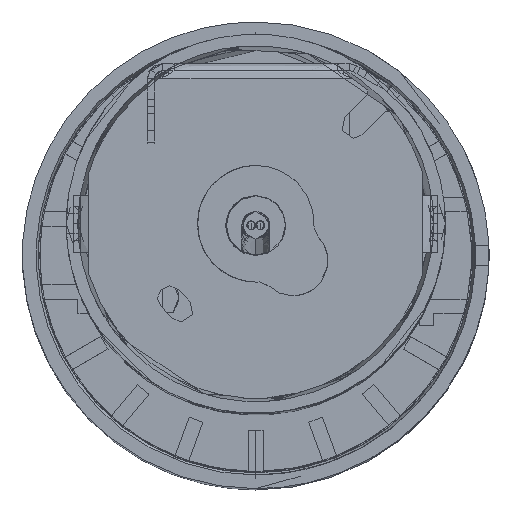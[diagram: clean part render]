
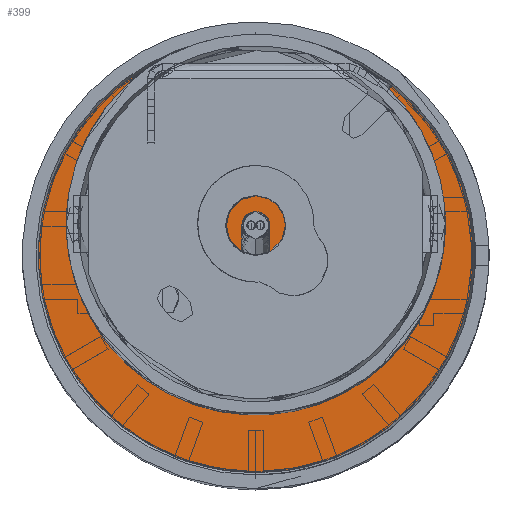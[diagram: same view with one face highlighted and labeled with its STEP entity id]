
A CAD part, top view. The second image highlights one B-rep face of the part: STEP entity #399.
In plain terms, the highlighted planar face has unit normal (0, 0, 1) as drawn and (0, 1, 0) by its records, which use the part's own axes.
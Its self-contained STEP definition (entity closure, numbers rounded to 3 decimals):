
#110=FACE_BOUND('',#1590,.T.);
#399=ADVANCED_FACE('',(#990,#110),#9486,.T.);
#990=FACE_OUTER_BOUND('',#1589,.T.);
#1589=EDGE_LOOP('',(#3317,#3318));
#1590=EDGE_LOOP('',(#3319,#3320));
#3317=ORIENTED_EDGE('',*,*,#5831,.F.);
#3318=ORIENTED_EDGE('',*,*,#5828,.F.);
#3319=ORIENTED_EDGE('',*,*,#5833,.T.);
#3320=ORIENTED_EDGE('',*,*,#5824,.T.);
#5824=EDGE_CURVE('',#8771,#8770,#7002,.T.);
#5828=EDGE_CURVE('',#8774,#8775,#7004,.T.);
#5831=EDGE_CURVE('',#8775,#8774,#7006,.T.);
#5833=EDGE_CURVE('',#8770,#8771,#7008,.T.);
#7002=(
BOUNDED_CURVE()
B_SPLINE_CURVE(2,(#17055,#17056,#17057,#17058,#17059),.UNSPECIFIED.,.F.,
 .F.)
B_SPLINE_CURVE_WITH_KNOTS((3,2,3),(-6.126,-3.063,
0.),.UNSPECIFIED.)
CURVE()
GEOMETRIC_REPRESENTATION_ITEM()
RATIONAL_B_SPLINE_CURVE((1.,0.707,1.,0.707,1.))
REPRESENTATION_ITEM('')
);
#7004=(
BOUNDED_CURVE()
B_SPLINE_CURVE(2,(#17069,#17070,#17071,#17072,#17073),.UNSPECIFIED.,.F.,
 .F.)
B_SPLINE_CURVE_WITH_KNOTS((3,2,3),(0.,58.512,117.024),
 .UNSPECIFIED.)
CURVE()
GEOMETRIC_REPRESENTATION_ITEM()
RATIONAL_B_SPLINE_CURVE((1.,0.707,1.,0.707,1.))
REPRESENTATION_ITEM('')
);
#7006=(
BOUNDED_CURVE()
B_SPLINE_CURVE(2,(#17081,#17082,#17083,#17084,#17085),.UNSPECIFIED.,.F.,
 .F.)
B_SPLINE_CURVE_WITH_KNOTS((3,2,3),(0.,58.512,117.024),
 .UNSPECIFIED.)
CURVE()
GEOMETRIC_REPRESENTATION_ITEM()
RATIONAL_B_SPLINE_CURVE((1.,0.707,1.,0.707,1.))
REPRESENTATION_ITEM('')
);
#7008=(
BOUNDED_CURVE()
B_SPLINE_CURVE(2,(#17091,#17092,#17093,#17094,#17095),.UNSPECIFIED.,.F.,
 .F.)
B_SPLINE_CURVE_WITH_KNOTS((3,2,3),(-6.126,-3.063,
0.),.UNSPECIFIED.)
CURVE()
GEOMETRIC_REPRESENTATION_ITEM()
RATIONAL_B_SPLINE_CURVE((1.,0.707,1.,0.707,1.))
REPRESENTATION_ITEM('')
);
#8770=VERTEX_POINT('',#17042);
#8771=VERTEX_POINT('',#17043);
#8774=VERTEX_POINT('',#17046);
#8775=VERTEX_POINT('',#17047);
#9486=PLANE('',#10218);
#10218=AXIS2_PLACEMENT_3D('',#17021,#10496,$);
#10496=DIRECTION('',(0.,1.,0.));
#17021=CARTESIAN_POINT('',(-44.7,0.,-44.7));
#17042=CARTESIAN_POINT('',(0.,0.,-1.95));
#17043=CARTESIAN_POINT('',(0.,0.,1.95));
#17046=CARTESIAN_POINT('',(0.,0.,-37.25));
#17047=CARTESIAN_POINT('',(0.,0.,37.25));
#17055=CARTESIAN_POINT('',(0.,0.,1.95));
#17056=CARTESIAN_POINT('',(-1.95,0.,1.95));
#17057=CARTESIAN_POINT('',(-1.95,0.,0.));
#17058=CARTESIAN_POINT('',(-1.95,0.,-1.95));
#17059=CARTESIAN_POINT('',(0.,0.,-1.95));
#17069=CARTESIAN_POINT('',(0.,0.,-37.25));
#17070=CARTESIAN_POINT('',(37.25,0.,-37.25));
#17071=CARTESIAN_POINT('',(37.25,0.,0.));
#17072=CARTESIAN_POINT('',(37.25,0.,37.25));
#17073=CARTESIAN_POINT('',(0.,0.,37.25));
#17081=CARTESIAN_POINT('',(0.,0.,37.25));
#17082=CARTESIAN_POINT('',(-37.25,0.,37.25));
#17083=CARTESIAN_POINT('',(-37.25,0.,0.));
#17084=CARTESIAN_POINT('',(-37.25,0.,-37.25));
#17085=CARTESIAN_POINT('',(0.,0.,-37.25));
#17091=CARTESIAN_POINT('',(0.,0.,-1.95));
#17092=CARTESIAN_POINT('',(1.95,0.,-1.95));
#17093=CARTESIAN_POINT('',(1.95,0.,0.));
#17094=CARTESIAN_POINT('',(1.95,0.,1.95));
#17095=CARTESIAN_POINT('',(0.,0.,1.95));
